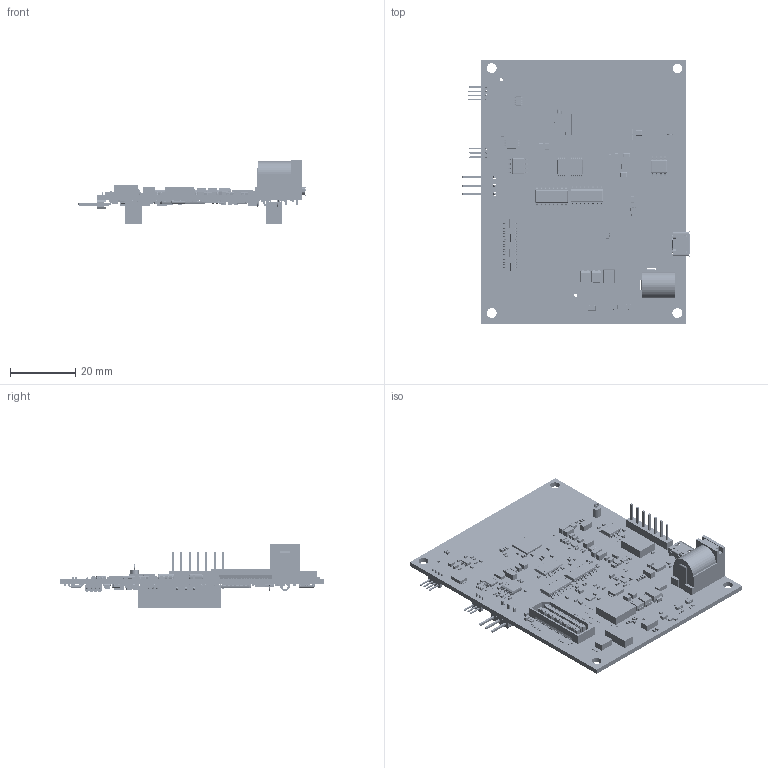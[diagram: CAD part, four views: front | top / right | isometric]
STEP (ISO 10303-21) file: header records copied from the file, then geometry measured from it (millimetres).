
FILE_DESCRIPTION(('Open CASCADE Model'),'2;1');
FILE_NAME('Open CASCADE Shape Model','2023-07-21T11:11:36',('Author'),( 'Open CASCADE'),'Open CASCADE STEP processor 7.5','Open CASCADE 7.5' ,'Unknown');
FILE_SCHEMA(('AUTOMOTIVE_DESIGN { 1 0 10303 214 1 1 1 1 }'));
Length unit declared in the file: millimetre
Products named in the file (772): PCB; Board; Open CASCADE STEP translator 7.5 1.1.1; S5; 6343700928; Extruded; J1; 61300311021; 61300311021_2; 61300311021_1; R156; 6323446784; 6323446624; C101; 6323449664; 6323449504; U6; IC_INA228AIDGST_VSSOP10; IC_BODY; IC_LEG; circle; IC_LEG_MIR7; Texas Instruments; C63; 3528-21; Case_Cathode_1; Case_Top_1; Case_Top_1_2; Case_Anode_1; Case_Bottom_1; U15; IC_TS3A27518EPWR_TSSOP24; IC_LEG_MIR6; R121; Res_RMCF0402FT68K0_0402; terminals; body; top; Stackpole; R119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
Assembly tree (1974 placements, depth 6):
  PCB
    Board
      Open CASCADE STEP translator 7.5 1.1.1
    S5
      6343700928
        Extruded
    J1
      61300311021
        61300311021_2  x3
        61300311021_1
    R156
      6323446784  x2
        Extruded
      6323446624
        Extruded
    C101
      6323449664  x2
        Extruded
      6323449504
        Extruded
    U6
      IC_INA228AIDGST_VSSOP10
        IC_BODY
        IC_LEG  x5
        circle
        IC_LEG_MIR7  x5
        Texas Instruments
    C63
      3528-21
        Case_Cathode_1
        Case_Top_1
          Case_Top_1_2
        Case_Anode_1
        Case_Bottom_1
    U15
      IC_TS3A27518EPWR_TSSOP24
        IC_BODY
        circle
        IC_LEG  x12
        IC_LEG_MIR6  x12
        Texas Instruments
    R121
      Res_RMCF0402FT68K0_0402
        terminals
        body
        top
        Stackpole
    R119
      Res_RMCF0402FT68K0_0402
        terminals
        body
        top
        Stackpole
    C100
      6323449664  x2
        Extruded
      6323449504
        Extruded
    U8
      IC_INA228AIDGST_VSSOP10
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Bounding box: 69.96 x 80.91 x 19.91 mm (x, y, z)
Volume: 12203.4 mm3; surface area: 22944.7 mm2
Topology: 2212 solids, 2212 shells, 31064 faces, 78827 edges, 51789 vertices
Faces by surface type: plane 21371, cylinder 5223, bspline 3722, sphere 666, torus 76, revolution 4, cone 2
Full cylindrical faces by diameter (mm): 0.2 x1, 0.217 x1, 0.25 x1, 0.3 x5, 0.4 x1, 0.6 x7, 0.85 x2, 1.016 x10, 1.02 x2, 1.1 x3, 2.5 x1, 3 x4
Entity records: 445288 total; most frequent: CARTESIAN_POINT 98617, ORIENTED_EDGE 66142, DIRECTION 58305, EDGE_CURVE 33071, LINE 25075, VECTOR 25075, VERTEX_POINT 21779, AXIS2_PLACEMENT_3D 16613
